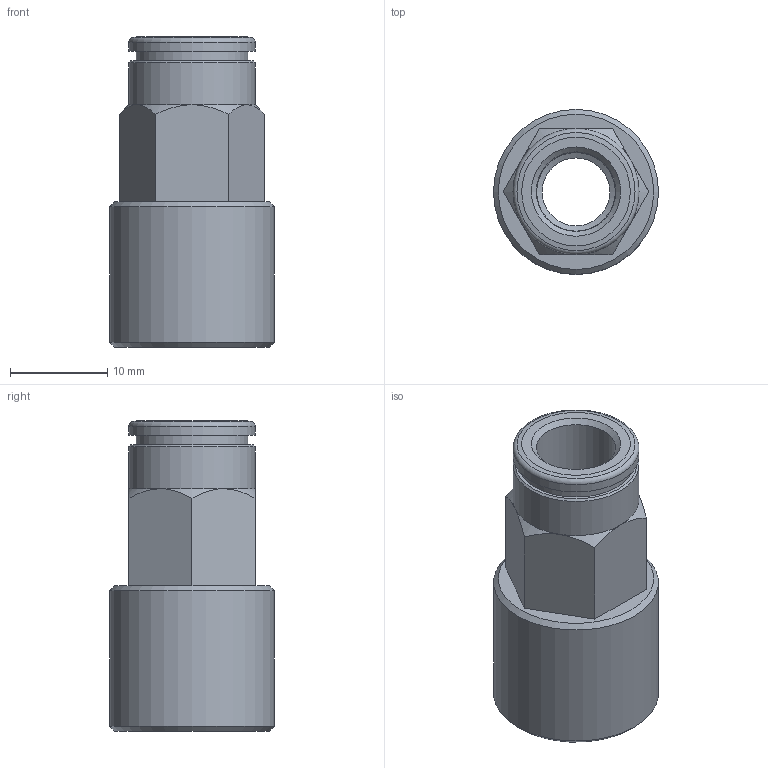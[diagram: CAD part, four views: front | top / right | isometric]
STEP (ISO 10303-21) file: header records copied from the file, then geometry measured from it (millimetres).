
FILE_DESCRIPTION(('Bauteilbeschreibung','HiCAD-Model','HiCAD-STEP-TRANSLATION','Bauteilbeschreibung'),'2;1');
FILE_NAME('B:/ABGLEICH/ZEICHNUNGEN/STEP FÜR INTERNET/STEP/200208_IPSO_02_8_1-4.STP','2011-07-15T10:55:21+00:00',('Konstrukteur'),('Konstrukteur Firma GmbH'),' HiCAD neXt 2008, Step 3.1.1401.2J ','HiCAD neXt 2008','confidential');
FILE_SCHEMA(('AUTOMOTIVE_DESIGN { 1 2 10303 214 0 1 1 1 }'));
Length unit declared in the file: millimetre
Products named in the file (5): A00208_IPSO_02_8_1_4; DR8_1_NEU; R200208_N; R2002080N; G 1_4
Assembly tree (4 placements, depth 3):
  A00208_IPSO_02_8_1_4
    DR8_1_NEU
    R200208_N
    R2002080N
      G 1_4
Bounding box: 17 x 17 x 32 mm (x, y, z)
Volume: 3154.1 mm3; surface area: 4282.5 mm2
Topology: 3 solids, 3 shells, 50 faces, 102 edges, 62 vertices
Faces by surface type: cone 19, plane 16, cylinder 14, torus 1
Full cylindrical faces by diameter (mm): 7 x1, 8.1 x1, 8.2 x1, 10.1 x1, 11 x1, 11.445 x2, 11.5 x1, 11.6 x1, 13 x2, 13.157 x2, 17 x1
Entity records: 1565 total; most frequent: DIRECTION 214, CARTESIAN_POINT 204, ORIENTED_EDGE 134, AXIS2_PLACEMENT_3D 101, EDGE_LOOP 88, COLOUR_RGB 70, PRESENTATION_STYLE_ASSIGNMENT 70, CURVE_STYLE 67
